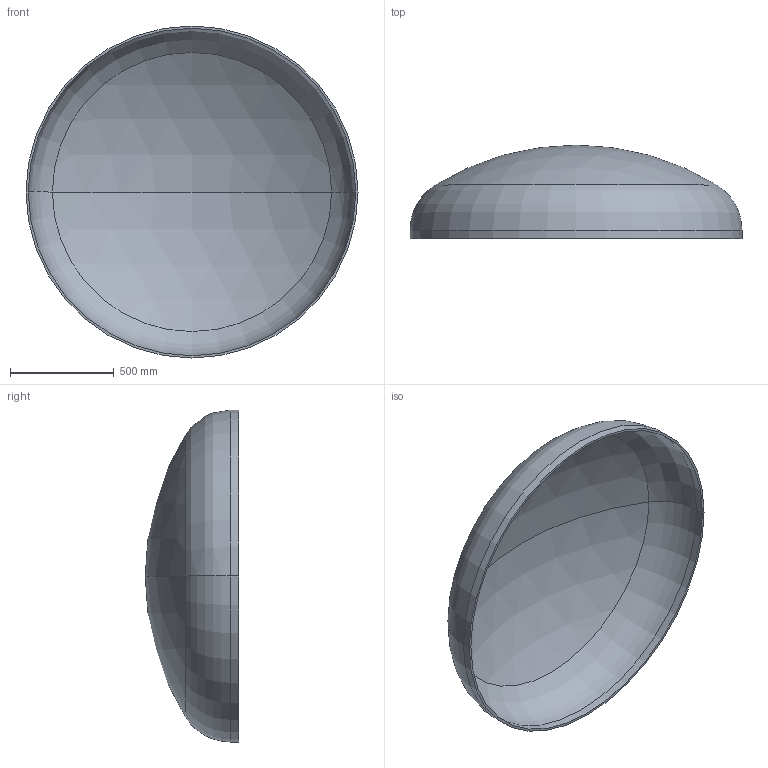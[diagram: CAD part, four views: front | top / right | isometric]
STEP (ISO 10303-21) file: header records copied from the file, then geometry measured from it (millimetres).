
FILE_DESCRIPTION (( 'STEP AP203' ), '1' );
FILE_NAME ('DIN 28013 Korbbogenform_-_Boden DIN 28013 - 1600 x 40 - I - s=11.step', '2016-07-01T11:04:50', ( '' ), ( '' ), 'SwSTEP 2.0', 'SolidWorks 2013', '' );
FILE_SCHEMA (( 'CONFIG_CONTROL_DESIGN' ));
Length unit declared in the file: millimetre
Products named in the file (1): DIN 28013 Korbbogenform_-_Boden DIN 28013 - 1600 x 40 - I - s=11
Bounding box: 1600 x 450.5 x 1600 mm (x, y, z)
Volume: 32517500.4 mm3; surface area: 5967435.9 mm2
Topology: 1 solids, 1 shells, 13 faces, 24 edges, 14 vertices
Faces by surface type: torus 4, cylinder 4, sphere 4, plane 1
Entity records: 407 total; most frequent: DIRECTION 72, CARTESIAN_POINT 52, ORIENTED_EDGE 48, AXIS2_PLACEMENT_3D 34, EDGE_CURVE 24, CIRCLE 20, EDGE_LOOP 14, VERTEX_POINT 14
